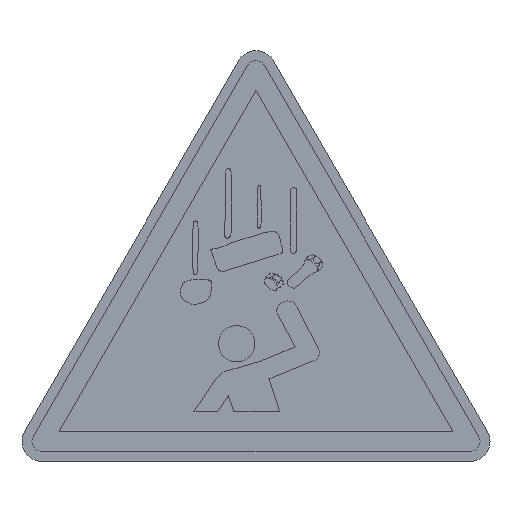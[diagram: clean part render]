
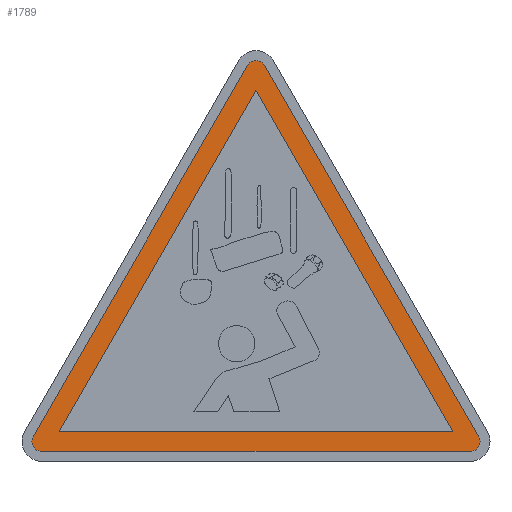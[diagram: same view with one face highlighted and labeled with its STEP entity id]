
A CAD part, top view. The second image highlights one B-rep face of the part: STEP entity #1789.
In plain terms, the highlighted planar face has unit normal (0, 0, 1).
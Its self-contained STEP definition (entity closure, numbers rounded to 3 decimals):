
#43 = ORIENTED_EDGE ( 'NONE', *, *, #3545, .T. ) ;
#57 = DIRECTION ( 'NONE',  ( -0.5, -0.866, 0. ) ) ;
#59 = AXIS2_PLACEMENT_3D ( 'NONE', #155, #477, #1522 ) ;
#85 = LINE ( 'NONE', #3660, #1724 ) ;
#145 = VECTOR ( 'NONE', #57, 1000. ) ;
#153 = CIRCLE ( 'NONE', #2579, 1. ) ;
#155 = CARTESIAN_POINT ( 'NONE',  ( 0., 39.301, 0.22 ) ) ;
#158 = DIRECTION ( 'NONE',  ( 0., 0., 1. ) ) ;
#195 = CARTESIAN_POINT ( 'NONE',  ( -22.536, 2., 0.22 ) ) ;
#202 = VERTEX_POINT ( 'NONE', #3907 ) ;
#282 = FACE_OUTER_BOUND ( 'NONE', #1136, .T. ) ;
#310 = DIRECTION ( 'NONE',  ( 1., 0., 0. ) ) ;
#477 = DIRECTION ( 'NONE',  ( 0., 0., 1. ) ) ;
#486 = AXIS2_PLACEMENT_3D ( 'NONE', #1567, #1854, #4259 ) ;
#620 = AXIS2_PLACEMENT_3D ( 'NONE', #3133, #158, #310 ) ;
#625 = EDGE_CURVE ( 'NONE', #2026, #3022, #3902, .T. ) ;
#644 = DIRECTION ( 'NONE',  ( 1., 0., 0. ) ) ;
#653 = CARTESIAN_POINT ( 'NONE',  ( 22.402, 2.5, 0.22 ) ) ;
#674 = CARTESIAN_POINT ( 'NONE',  ( 22.402, 2.5, 0.22 ) ) ;
#688 = VECTOR ( 'NONE', #1998, 1000. ) ;
#718 = CARTESIAN_POINT ( 'NONE',  ( -21.536, 2., 0.22 ) ) ;
#768 = CARTESIAN_POINT ( 'NONE',  ( -19.804, 3., 0.22 ) ) ;
#785 = VERTEX_POINT ( 'NONE', #3529 ) ;
#912 = VERTEX_POINT ( 'NONE', #2566 ) ;
#932 = CARTESIAN_POINT ( 'NONE',  ( 19.804, 3., 0.22 ) ) ;
#950 = EDGE_LOOP ( 'NONE', ( #2370, #1676, #1628 ) ) ;
#1038 = VERTEX_POINT ( 'NONE', #195 ) ;
#1084 = EDGE_CURVE ( 'NONE', #202, #1038, #2135, .T. ) ;
#1089 = EDGE_CURVE ( 'NONE', #785, #1410, #3691, .T. ) ;
#1136 = EDGE_LOOP ( 'NONE', ( #2545, #43, #1578, #3993, #2180, #2451, #1538 ) ) ;
#1239 = AXIS2_PLACEMENT_3D ( 'NONE', #3419, #3828, #3506 ) ;
#1257 = FACE_BOUND ( 'NONE', #950, .T. ) ;
#1261 = CARTESIAN_POINT ( 'NONE',  ( -21.536, 1., 0.22 ) ) ;
#1303 = EDGE_CURVE ( 'NONE', #1901, #2026, #85, .T. ) ;
#1356 = DIRECTION ( 'NONE',  ( -0.5, 0.866, 0. ) ) ;
#1362 = DIRECTION ( 'NONE',  ( 1., 0., 0. ) ) ;
#1410 = VERTEX_POINT ( 'NONE', #3911 ) ;
#1425 = CARTESIAN_POINT ( 'NONE',  ( 19.804, 3., 0.22 ) ) ;
#1522 = DIRECTION ( 'NONE',  ( 1., 0., 0. ) ) ;
#1538 = ORIENTED_EDGE ( 'NONE', *, *, #2526, .T. ) ;
#1567 = CARTESIAN_POINT ( 'NONE',  ( 0., 39.301, 0.22 ) ) ;
#1578 = ORIENTED_EDGE ( 'NONE', *, *, #1084, .T. ) ;
#1604 = LINE ( 'NONE', #674, #688 ) ;
#1628 = ORIENTED_EDGE ( 'NONE', *, *, #625, .F. ) ;
#1676 = ORIENTED_EDGE ( 'NONE', *, *, #2718, .F. ) ;
#1724 = VECTOR ( 'NONE', #644, 1000. ) ;
#1748 = CARTESIAN_POINT ( 'NONE',  ( 0., 37.301, 0.22 ) ) ;
#1789 = ADVANCED_FACE ( 'NONE', ( #282, #1257 ), #2909, .T. ) ;
#1854 = DIRECTION ( 'NONE',  ( 0., 0., 1. ) ) ;
#1901 = VERTEX_POINT ( 'NONE', #768 ) ;
#1998 = DIRECTION ( 'NONE',  ( -0.5, 0.866, 0. ) ) ;
#2026 = VERTEX_POINT ( 'NONE', #1425 ) ;
#2048 = VECTOR ( 'NONE', #2970, 1000. ) ;
#2135 = CIRCLE ( 'NONE', #1239, 1. ) ;
#2137 = EDGE_CURVE ( 'NONE', #912, #2575, #2782, .T. ) ;
#2180 = ORIENTED_EDGE ( 'NONE', *, *, #3400, .T. ) ;
#2370 = ORIENTED_EDGE ( 'NONE', *, *, #1303, .F. ) ;
#2451 = ORIENTED_EDGE ( 'NONE', *, *, #2137, .T. ) ;
#2526 = EDGE_CURVE ( 'NONE', #2575, #785, #1604, .T. ) ;
#2545 = ORIENTED_EDGE ( 'NONE', *, *, #1089, .T. ) ;
#2566 = CARTESIAN_POINT ( 'NONE',  ( 21.536, 1., 0.22 ) ) ;
#2575 = VERTEX_POINT ( 'NONE', #653 ) ;
#2579 = AXIS2_PLACEMENT_3D ( 'NONE', #718, #3026, #1362 ) ;
#2585 = DIRECTION ( 'NONE',  ( 1., 0., 0. ) ) ;
#2695 = CARTESIAN_POINT ( 'NONE',  ( 0., 37.301, 0.22 ) ) ;
#2718 = EDGE_CURVE ( 'NONE', #3022, #1901, #3759, .T. ) ;
#2739 = LINE ( 'NONE', #4062, #2048 ) ;
#2782 = CIRCLE ( 'NONE', #620, 1. ) ;
#2909 = PLANE ( 'NONE',  #486 ) ;
#2970 = DIRECTION ( 'NONE',  ( -0.5, -0.866, 0. ) ) ;
#3022 = VERTEX_POINT ( 'NONE', #2695 ) ;
#3026 = DIRECTION ( 'NONE',  ( 0., 0., 1. ) ) ;
#3133 = CARTESIAN_POINT ( 'NONE',  ( 21.536, 2., 0.22 ) ) ;
#3217 = EDGE_CURVE ( 'NONE', #1038, #3841, #153, .T. ) ;
#3281 = LINE ( 'NONE', #1261, #3669 ) ;
#3400 = EDGE_CURVE ( 'NONE', #3841, #912, #3281, .T. ) ;
#3419 = CARTESIAN_POINT ( 'NONE',  ( -21.536, 2., 0.22 ) ) ;
#3506 = DIRECTION ( 'NONE',  ( 1., 0., 0. ) ) ;
#3529 = CARTESIAN_POINT ( 'NONE',  ( 0.866, 39.801, 0.22 ) ) ;
#3545 = EDGE_CURVE ( 'NONE', #1410, #202, #2739, .T. ) ;
#3660 = CARTESIAN_POINT ( 'NONE',  ( -19.804, 3., 0.22 ) ) ;
#3669 = VECTOR ( 'NONE', #2585, 1000. ) ;
#3683 = VECTOR ( 'NONE', #1356, 1000. ) ;
#3691 = CIRCLE ( 'NONE', #59, 1. ) ;
#3759 = LINE ( 'NONE', #1748, #145 ) ;
#3828 = DIRECTION ( 'NONE',  ( 0., 0., 1. ) ) ;
#3841 = VERTEX_POINT ( 'NONE', #4004 ) ;
#3902 = LINE ( 'NONE', #932, #3683 ) ;
#3907 = CARTESIAN_POINT ( 'NONE',  ( -22.402, 2.5, 0.22 ) ) ;
#3911 = CARTESIAN_POINT ( 'NONE',  ( -0.866, 39.801, 0.22 ) ) ;
#3993 = ORIENTED_EDGE ( 'NONE', *, *, #3217, .T. ) ;
#4004 = CARTESIAN_POINT ( 'NONE',  ( -21.536, 1., 0.22 ) ) ;
#4062 = CARTESIAN_POINT ( 'NONE',  ( -0.866, 39.801, 0.22 ) ) ;
#4259 = DIRECTION ( 'NONE',  ( 1., 0., 0. ) ) ;
